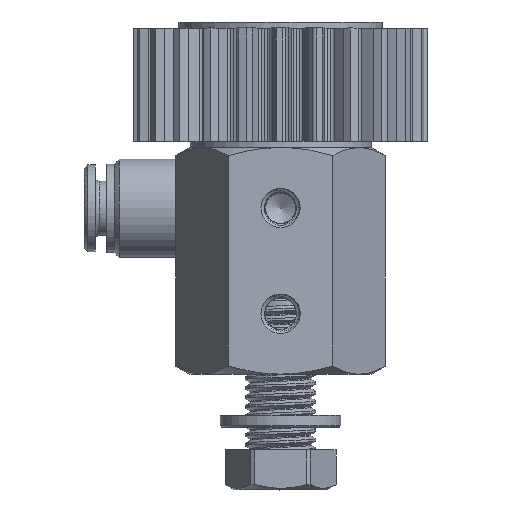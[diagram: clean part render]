
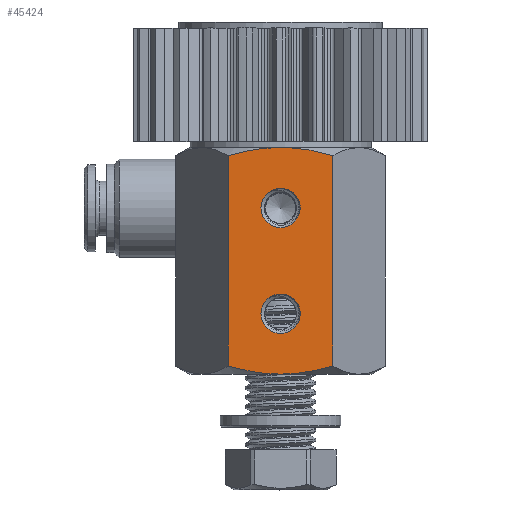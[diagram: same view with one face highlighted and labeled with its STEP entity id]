
A CAD part, top view. The second image highlights one B-rep face of the part: STEP entity #45424.
In plain terms, the highlighted planar face has unit normal (0, 0, 1).
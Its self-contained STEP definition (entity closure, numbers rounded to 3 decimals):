
#616 = VECTOR ( 'NONE', #5617, 1000. ) ;
#744 = ORIENTED_EDGE ( 'NONE', *, *, #18044, .T. ) ;
#1241 = CARTESIAN_POINT ( 'NONE',  ( -6.928, 1.072, 12. ) ) ;
#1331 = VERTEX_POINT ( 'NONE', #1241 ) ;
#1339 = AXIS2_PLACEMENT_3D ( 'NONE', #6097, #6328, #13667 ) ;
#2877 = AXIS2_PLACEMENT_3D ( 'NONE', #30079, #43507, #44186 ) ;
#2905 = CARTESIAN_POINT ( 'NONE',  ( 4.661, 29.523, 12. ) ) ;
#3085 = ORIENTED_EDGE ( 'NONE', *, *, #22292, .T. ) ;
#4071 = CARTESIAN_POINT ( 'NONE',  ( -2.353, 29.876, 12. ) ) ;
#4342 = CIRCLE ( 'NONE', #2877, 2.6 ) ;
#4684 = B_SPLINE_CURVE_WITH_KNOTS ( 'NONE', 3,
 ( #17364, #9990, #2905, #24419, #6691, #6457 ),
 .UNSPECIFIED., .F., .F.,
 ( 4, 2, 4 ),
 ( 0.015, 0.019, 0.022 ),
 .UNSPECIFIED. ) ;
#4767 = CARTESIAN_POINT ( 'NONE',  ( -1.183, 29.974, 12. ) ) ;
#5584 = LINE ( 'NONE', #24975, #31298 ) ;
#5617 = DIRECTION ( 'NONE',  ( 0., -1., 0. ) ) ;
#6097 = CARTESIAN_POINT ( 'NONE',  ( 6.928, 30., 12. ) ) ;
#6328 = DIRECTION ( 'NONE',  ( 0., 0., 1. ) ) ;
#6457 = CARTESIAN_POINT ( 'NONE',  ( 0., 30., 12. ) ) ;
#6550 = ORIENTED_EDGE ( 'NONE', *, *, #43771, .T. ) ;
#6621 = VERTEX_POINT ( 'NONE', #10396 ) ;
#6691 = CARTESIAN_POINT ( 'NONE',  ( 1.186, 30., 12. ) ) ;
#6864 = CARTESIAN_POINT ( 'NONE',  ( 2.353, 0.124, 12. ) ) ;
#7308 = CARTESIAN_POINT ( 'NONE',  ( 4.663, 0.477, 12. ) ) ;
#7434 = VERTEX_POINT ( 'NONE', #22435 ) ;
#8320 = CARTESIAN_POINT ( 'NONE',  ( -2.933, 29.803, 12. ) ) ;
#8415 = VERTEX_POINT ( 'NONE', #36807 ) ;
#8830 = B_SPLINE_CURVE_WITH_KNOTS ( 'NONE', 3,
 ( #10942, #43490, #4767, #4071, #8320, #15642, #11399, #37125 ),
 .UNSPECIFIED., .F., .F.,
 ( 4, 2, 2, 4 ),
 ( 0.022, 0.024, 0.026, 0.029 ),
 .UNSPECIFIED. ) ;
#9990 = CARTESIAN_POINT ( 'NONE',  ( 5.8, 29.254, 12. ) ) ;
#10396 = CARTESIAN_POINT ( 'NONE',  ( -2.6, 22., 12. ) ) ;
#10942 = CARTESIAN_POINT ( 'NONE',  ( 0., 30., 12. ) ) ;
#11399 = CARTESIAN_POINT ( 'NONE',  ( -5.801, 29.254, 12. ) ) ;
#12125 = VERTEX_POINT ( 'NONE', #35940 ) ;
#13667 = DIRECTION ( 'NONE',  ( 1., 0., 0. ) ) ;
#13805 = CARTESIAN_POINT ( 'NONE',  ( 6.928, 28.928, 12. ) ) ;
#15642 = CARTESIAN_POINT ( 'NONE',  ( -4.663, 29.523, 12. ) ) ;
#15652 = AXIS2_PLACEMENT_3D ( 'NONE', #18282, #36451, #32454 ) ;
#16054 = CARTESIAN_POINT ( 'NONE',  ( -2.354, 0.103, 12. ) ) ;
#16509 = FACE_BOUND ( 'NONE', #16599, .T. ) ;
#16599 = EDGE_LOOP ( 'NONE', ( #29802 ) ) ;
#17297 = CARTESIAN_POINT ( 'NONE',  ( 1.183, 0.026, 12. ) ) ;
#17364 = CARTESIAN_POINT ( 'NONE',  ( 6.928, 28.928, 12. ) ) ;
#18036 = ORIENTED_EDGE ( 'NONE', *, *, #27729, .T. ) ;
#18044 = EDGE_CURVE ( 'NONE', #1331, #12125, #20758, .T. ) ;
#18282 = CARTESIAN_POINT ( 'NONE',  ( 0., 22., 12. ) ) ;
#19135 = CARTESIAN_POINT ( 'NONE',  ( -5.8, 0.746, 12. ) ) ;
#19373 = CARTESIAN_POINT ( 'NONE',  ( -6.928, 1.072, 12. ) ) ;
#19646 = VERTEX_POINT ( 'NONE', #13805 ) ;
#20758 = B_SPLINE_CURVE_WITH_KNOTS ( 'NONE', 3,
 ( #19373, #19135, #30471, #16054, #37068, #26675 ),
 .UNSPECIFIED., .F., .F.,
 ( 4, 2, 4 ),
 ( 0.015, 0.019, 0.022 ),
 .UNSPECIFIED. ) ;
#21674 = ORIENTED_EDGE ( 'NONE', *, *, #45246, .T. ) ;
#22292 = EDGE_CURVE ( 'NONE', #19646, #33312, #4684, .T. ) ;
#22435 = CARTESIAN_POINT ( 'NONE',  ( 6.928, 1.072, 12. ) ) ;
#23580 = CARTESIAN_POINT ( 'NONE',  ( -6.928, 30., 12. ) ) ;
#23812 = PLANE ( 'NONE',  #1339 ) ;
#24328 = CARTESIAN_POINT ( 'NONE',  ( 0., 30., 12. ) ) ;
#24419 = CARTESIAN_POINT ( 'NONE',  ( 2.354, 29.897, 12. ) ) ;
#24837 = CARTESIAN_POINT ( 'NONE',  ( 2.6, 8., 12. ) ) ;
#24975 = CARTESIAN_POINT ( 'NONE',  ( 6.928, 30., 12. ) ) ;
#26675 = CARTESIAN_POINT ( 'NONE',  ( 0., 0., 12. ) ) ;
#26998 = CIRCLE ( 'NONE', #15652, 2.6 ) ;
#27355 = EDGE_LOOP ( 'NONE', ( #6550 ) ) ;
#27382 = LINE ( 'NONE', #23580, #616 ) ;
#27729 = EDGE_CURVE ( 'NONE', #33312, #8415, #8830, .T. ) ;
#28150 = CARTESIAN_POINT ( 'NONE',  ( 6.928, 1.072, 12. ) ) ;
#28290 = DIRECTION ( 'NONE',  ( 0., -1., 0. ) ) ;
#28837 = CARTESIAN_POINT ( 'NONE',  ( 0., 0., 12. ) ) ;
#29623 = EDGE_CURVE ( 'NONE', #12125, #7434, #45373, .T. ) ;
#29802 = ORIENTED_EDGE ( 'NONE', *, *, #44867, .F. ) ;
#30053 = EDGE_LOOP ( 'NONE', ( #3085, #18036, #21674, #744, #38668, #33658 ) ) ;
#30079 = CARTESIAN_POINT ( 'NONE',  ( 0., 8., 12. ) ) ;
#30471 = CARTESIAN_POINT ( 'NONE',  ( -4.661, 0.477, 12. ) ) ;
#31298 = VECTOR ( 'NONE', #28290, 1000. ) ;
#31913 = VERTEX_POINT ( 'NONE', #24837 ) ;
#32454 = DIRECTION ( 'NONE',  ( -1., 0., 0. ) ) ;
#33312 = VERTEX_POINT ( 'NONE', #24328 ) ;
#33658 = ORIENTED_EDGE ( 'NONE', *, *, #37371, .F. ) ;
#35685 = CARTESIAN_POINT ( 'NONE',  ( 2.933, 0.197, 12. ) ) ;
#35940 = CARTESIAN_POINT ( 'NONE',  ( 0., 0., 12. ) ) ;
#36451 = DIRECTION ( 'NONE',  ( 0., 0., -1. ) ) ;
#36807 = CARTESIAN_POINT ( 'NONE',  ( -6.928, 28.928, 12. ) ) ;
#37068 = CARTESIAN_POINT ( 'NONE',  ( -1.186, 0., 12. ) ) ;
#37125 = CARTESIAN_POINT ( 'NONE',  ( -6.928, 28.928, 12. ) ) ;
#37371 = EDGE_CURVE ( 'NONE', #19646, #7434, #5584, .T. ) ;
#38446 = FACE_BOUND ( 'NONE', #27355, .T. ) ;
#38668 = ORIENTED_EDGE ( 'NONE', *, *, #29623, .T. ) ;
#39212 = CARTESIAN_POINT ( 'NONE',  ( 0.593, 0., 12. ) ) ;
#43490 = CARTESIAN_POINT ( 'NONE',  ( -0.593, 30., 12. ) ) ;
#43507 = DIRECTION ( 'NONE',  ( 0., 0., 1. ) ) ;
#43771 = EDGE_CURVE ( 'NONE', #6621, #6621, #26998, .T. ) ;
#44186 = DIRECTION ( 'NONE',  ( 1., 0., 0. ) ) ;
#44867 = EDGE_CURVE ( 'NONE', #31913, #31913, #4342, .T. ) ;
#45246 = EDGE_CURVE ( 'NONE', #8415, #1331, #27382, .T. ) ;
#45282 = FACE_OUTER_BOUND ( 'NONE', #30053, .T. ) ;
#45373 = B_SPLINE_CURVE_WITH_KNOTS ( 'NONE', 3,
 ( #28837, #39212, #17297, #6864, #35685, #7308, #45818, #28150 ),
 .UNSPECIFIED., .F., .F.,
 ( 4, 2, 2, 4 ),
 ( 0.022, 0.024, 0.026, 0.029 ),
 .UNSPECIFIED. ) ;
#45424 = ADVANCED_FACE ( 'NONE', ( #16509, #38446, #45282 ), #23812, .T. ) ;
#45818 = CARTESIAN_POINT ( 'NONE',  ( 5.801, 0.746, 12. ) ) ;
